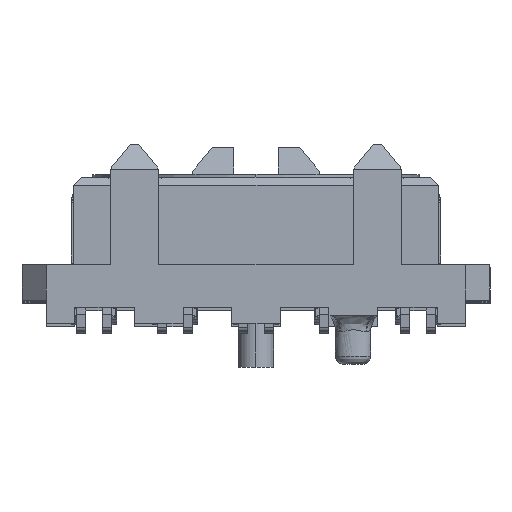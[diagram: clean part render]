
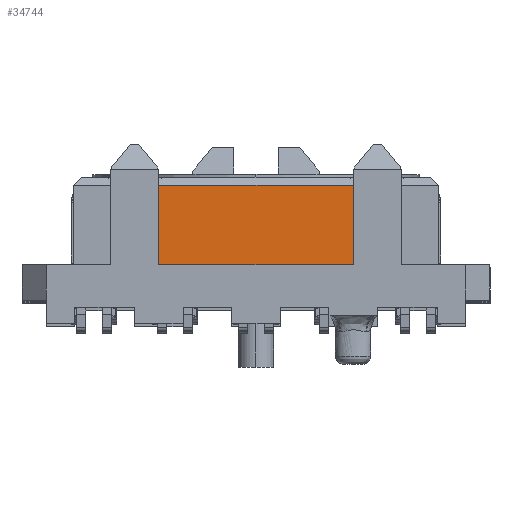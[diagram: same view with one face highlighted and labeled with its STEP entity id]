
A CAD part, top view. The second image highlights one B-rep face of the part: STEP entity #34744.
In plain terms, the highlighted planar face has unit normal (0, 0, 1).
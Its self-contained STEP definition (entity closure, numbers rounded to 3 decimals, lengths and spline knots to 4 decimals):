
#10902 = CARTESIAN_POINT ( 'NONE',  ( 5.7404, 1.1176, 26.9494 ) ) ;
#16026 = EDGE_CURVE ( 'NONE', #53620, #97238, #101001, .T. ) ;
#22934 = AXIS2_PLACEMENT_3D ( 'NONE', #42651, #125005, #135687 ) ;
#23425 = CARTESIAN_POINT ( 'NONE',  ( -3.048, 1.1176, 26.9494 ) ) ;
#25269 = EDGE_CURVE ( 'NONE', #53620, #98983, #134152, .T. ) ;
#34744 = ADVANCED_FACE ( 'NONE', ( #46765 ), #113268, .F. ) ;
#42651 = CARTESIAN_POINT ( 'NONE',  ( 5.7404, 0., 26.9494 ) ) ;
#44236 = VECTOR ( 'NONE', #126428, 1000. ) ;
#46765 = FACE_OUTER_BOUND ( 'NONE', #132005, .T. ) ;
#53620 = VERTEX_POINT ( 'NONE', #89429 ) ;
#54199 = ORIENTED_EDGE ( 'NONE', *, *, #114893, .F. ) ;
#61395 = VERTEX_POINT ( 'NONE', #23425 ) ;
#62456 = ORIENTED_EDGE ( 'NONE', *, *, #25269, .F. ) ;
#66509 = CARTESIAN_POINT ( 'NONE',  ( 3.048, 0., 26.9494 ) ) ;
#68239 = VECTOR ( 'NONE', #101300, 1000. ) ;
#70302 = VECTOR ( 'NONE', #92027, 1000. ) ;
#70655 = DIRECTION ( 'NONE',  ( -1., 0., 0. ) ) ;
#73498 = EDGE_CURVE ( 'NONE', #61395, #97238, #94591, .T. ) ;
#89429 = CARTESIAN_POINT ( 'NONE',  ( 3.048, 3.6068, 26.9494 ) ) ;
#92027 = DIRECTION ( 'NONE',  ( 0., 1., 0. ) ) ;
#94336 = ORIENTED_EDGE ( 'NONE', *, *, #73498, .F. ) ;
#94591 = LINE ( 'NONE', #102244, #70302 ) ;
#97238 = VERTEX_POINT ( 'NONE', #104057 ) ;
#98983 = VERTEX_POINT ( 'NONE', #132283 ) ;
#101001 = LINE ( 'NONE', #103359, #44236 ) ;
#101300 = DIRECTION ( 'NONE',  ( 0., -1., 0. ) ) ;
#102244 = CARTESIAN_POINT ( 'NONE',  ( -3.048, 0., 26.9494 ) ) ;
#103359 = CARTESIAN_POINT ( 'NONE',  ( 5.7404, 3.6068, 26.9494 ) ) ;
#104057 = CARTESIAN_POINT ( 'NONE',  ( -3.048, 3.6068, 26.9494 ) ) ;
#113268 = PLANE ( 'NONE',  #22934 ) ;
#114893 = EDGE_CURVE ( 'NONE', #98983, #61395, #116210, .T. ) ;
#116210 = LINE ( 'NONE', #10902, #136075 ) ;
#124492 = ORIENTED_EDGE ( 'NONE', *, *, #16026, .T. ) ;
#125005 = DIRECTION ( 'NONE',  ( 0., 0., -1. ) ) ;
#126428 = DIRECTION ( 'NONE',  ( -1., 0., 0. ) ) ;
#132005 = EDGE_LOOP ( 'NONE', ( #94336, #54199, #62456, #124492 ) ) ;
#132283 = CARTESIAN_POINT ( 'NONE',  ( 3.048, 1.1176, 26.9494 ) ) ;
#134152 = LINE ( 'NONE', #66509, #68239 ) ;
#135687 = DIRECTION ( 'NONE',  ( -1., 0., 0. ) ) ;
#136075 = VECTOR ( 'NONE', #70655, 1000. ) ;
